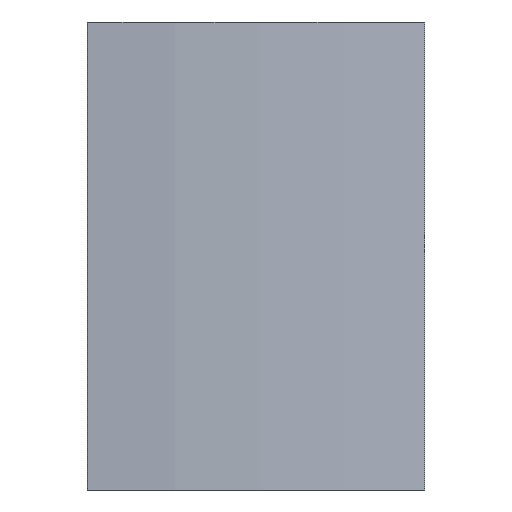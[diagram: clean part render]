
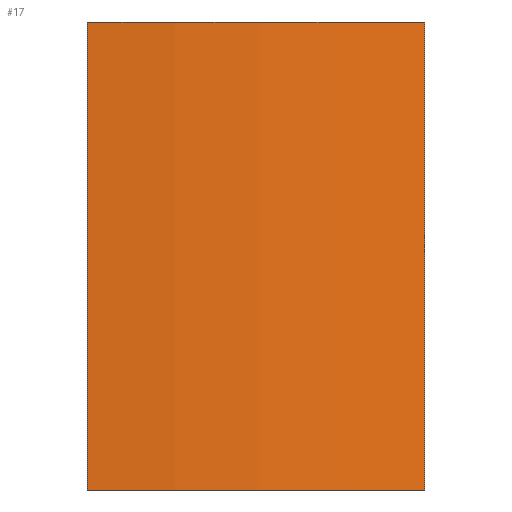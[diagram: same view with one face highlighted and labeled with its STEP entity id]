
A CAD part, front view. The second image highlights one B-rep face of the part: STEP entity #17.
In plain terms, the highlighted cylindrical face has radius 7.65 mm (diameter 15.3 mm), a partial arc.
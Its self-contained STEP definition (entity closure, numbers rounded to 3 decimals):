
#17 = ADVANCED_FACE('',(#18),#33,.T.);
#18 = FACE_BOUND('',#19,.T.);
#19 = EDGE_LOOP('',(#20,#56,#82,#111));
#20 = ORIENTED_EDGE('',*,*,#21,.F.);
#21 = EDGE_CURVE('',#22,#24,#26,.T.);
#22 = VERTEX_POINT('',#23);
#23 = CARTESIAN_POINT('',(0.04,-7.65,6.55));
#24 = VERTEX_POINT('',#25);
#25 = CARTESIAN_POINT('',(3.283,-6.91,6.55));
#26 = SURFACE_CURVE('',#27,(#32,#44),.PCURVE_S1.);
#27 = CIRCLE('',#28,7.65);
#28 = AXIS2_PLACEMENT_3D('',#29,#30,#31);
#29 = CARTESIAN_POINT('',(0.,0.,6.55));
#30 = DIRECTION('',(0.,0.,1.));
#31 = DIRECTION('',(1.,0.,-0.));
#32 = PCURVE('',#33,#38);
#33 = CYLINDRICAL_SURFACE('',#34,7.65);
#34 = AXIS2_PLACEMENT_3D('',#35,#36,#37);
#35 = CARTESIAN_POINT('',(0.,0.,2.05));
#36 = DIRECTION('',(0.,0.,1.));
#37 = DIRECTION('',(1.,0.,-0.));
#38 = DEFINITIONAL_REPRESENTATION('',(#39),#43);
#39 = LINE('',#40,#41);
#40 = CARTESIAN_POINT('',(0.,4.5));
#41 = VECTOR('',#42,1.);
#42 = DIRECTION('',(1.,0.));
#43 = ( GEOMETRIC_REPRESENTATION_CONTEXT(2) 
PARAMETRIC_REPRESENTATION_CONTEXT() REPRESENTATION_CONTEXT('2D SPACE',''
  ) );
#44 = PCURVE('',#45,#50);
#45 = PLANE('',#46);
#46 = AXIS2_PLACEMENT_3D('',#47,#48,#49);
#47 = CARTESIAN_POINT('',(0.,0.,6.55));
#48 = DIRECTION('',(0.,0.,1.));
#49 = DIRECTION('',(1.,0.,-0.));
#50 = DEFINITIONAL_REPRESENTATION('',(#51),#55);
#51 = CIRCLE('',#52,7.65);
#52 = AXIS2_PLACEMENT_2D('',#53,#54);
#53 = CARTESIAN_POINT('',(0.,0.));
#54 = DIRECTION('',(1.,0.));
#55 = ( GEOMETRIC_REPRESENTATION_CONTEXT(2) 
PARAMETRIC_REPRESENTATION_CONTEXT() REPRESENTATION_CONTEXT('2D SPACE',''
  ) );
#56 = ORIENTED_EDGE('',*,*,#57,.F.);
#57 = EDGE_CURVE('',#58,#22,#60,.T.);
#58 = VERTEX_POINT('',#59);
#59 = CARTESIAN_POINT('',(0.04,-7.65,2.05));
#60 = SURFACE_CURVE('',#61,(#65,#71),.PCURVE_S1.);
#61 = LINE('',#62,#63);
#62 = CARTESIAN_POINT('',(0.04,-7.65,2.05));
#63 = VECTOR('',#64,1.);
#64 = DIRECTION('',(0.,0.,1.));
#65 = PCURVE('',#33,#66);
#66 = DEFINITIONAL_REPRESENTATION('',(#67),#70);
#67 = B_SPLINE_CURVE_WITH_KNOTS('',1,(#68,#69),.UNSPECIFIED.,.F.,.F.,(2,
    2),(0.,4.5),.PIECEWISE_BEZIER_KNOTS.);
#68 = CARTESIAN_POINT('',(4.718,0.));
#69 = CARTESIAN_POINT('',(4.718,4.5));
#70 = ( GEOMETRIC_REPRESENTATION_CONTEXT(2) 
PARAMETRIC_REPRESENTATION_CONTEXT() REPRESENTATION_CONTEXT('2D SPACE',''
  ) );
#71 = PCURVE('',#72,#77);
#72 = PLANE('',#73);
#73 = AXIS2_PLACEMENT_3D('',#74,#75,#76);
#74 = CARTESIAN_POINT('',(0.,0.,2.04));
#75 = DIRECTION('',(1.,0.005,-0.));
#76 = DIRECTION('',(0.005,-1.,0.));
#77 = DEFINITIONAL_REPRESENTATION('',(#78),#81);
#78 = B_SPLINE_CURVE_WITH_KNOTS('',1,(#79,#80),.UNSPECIFIED.,.F.,.F.,(2,
    2),(0.,4.5),.PIECEWISE_BEZIER_KNOTS.);
#79 = CARTESIAN_POINT('',(7.65,-0.01));
#80 = CARTESIAN_POINT('',(7.65,-4.51));
#81 = ( GEOMETRIC_REPRESENTATION_CONTEXT(2) 
PARAMETRIC_REPRESENTATION_CONTEXT() REPRESENTATION_CONTEXT('2D SPACE',''
  ) );
#82 = ORIENTED_EDGE('',*,*,#83,.T.);
#83 = EDGE_CURVE('',#58,#84,#86,.T.);
#84 = VERTEX_POINT('',#85);
#85 = CARTESIAN_POINT('',(3.283,-6.91,2.05));
#86 = SURFACE_CURVE('',#87,(#92,#99),.PCURVE_S1.);
#87 = CIRCLE('',#88,7.65);
#88 = AXIS2_PLACEMENT_3D('',#89,#90,#91);
#89 = CARTESIAN_POINT('',(0.,0.,2.05));
#90 = DIRECTION('',(0.,0.,1.));
#91 = DIRECTION('',(1.,0.,-0.));
#92 = PCURVE('',#33,#93);
#93 = DEFINITIONAL_REPRESENTATION('',(#94),#98);
#94 = LINE('',#95,#96);
#95 = CARTESIAN_POINT('',(0.,0.));
#96 = VECTOR('',#97,1.);
#97 = DIRECTION('',(1.,0.));
#98 = ( GEOMETRIC_REPRESENTATION_CONTEXT(2) 
PARAMETRIC_REPRESENTATION_CONTEXT() REPRESENTATION_CONTEXT('2D SPACE',''
  ) );
#99 = PCURVE('',#100,#105);
#100 = PLANE('',#101);
#101 = AXIS2_PLACEMENT_3D('',#102,#103,#104);
#102 = CARTESIAN_POINT('',(0.,0.,2.05));
#103 = DIRECTION('',(0.,0.,1.));
#104 = DIRECTION('',(1.,0.,-0.));
#105 = DEFINITIONAL_REPRESENTATION('',(#106),#110);
#106 = CIRCLE('',#107,7.65);
#107 = AXIS2_PLACEMENT_2D('',#108,#109);
#108 = CARTESIAN_POINT('',(0.,0.));
#109 = DIRECTION('',(1.,0.));
#110 = ( GEOMETRIC_REPRESENTATION_CONTEXT(2) 
PARAMETRIC_REPRESENTATION_CONTEXT() REPRESENTATION_CONTEXT('2D SPACE',''
  ) );
#111 = ORIENTED_EDGE('',*,*,#112,.T.);
#112 = EDGE_CURVE('',#84,#24,#113,.T.);
#113 = SURFACE_CURVE('',#114,(#118,#124),.PCURVE_S1.);
#114 = LINE('',#115,#116);
#115 = CARTESIAN_POINT('',(3.283,-6.91,2.05));
#116 = VECTOR('',#117,1.);
#117 = DIRECTION('',(0.,0.,1.));
#118 = PCURVE('',#33,#119);
#119 = DEFINITIONAL_REPRESENTATION('',(#120),#123);
#120 = B_SPLINE_CURVE_WITH_KNOTS('',1,(#121,#122),.UNSPECIFIED.,.F.,.F.,
  (2,2),(0.,4.5),.PIECEWISE_BEZIER_KNOTS.);
#121 = CARTESIAN_POINT('',(5.156,0.));
#122 = CARTESIAN_POINT('',(5.156,4.5));
#123 = ( GEOMETRIC_REPRESENTATION_CONTEXT(2) 
PARAMETRIC_REPRESENTATION_CONTEXT() REPRESENTATION_CONTEXT('2D SPACE',''
  ) );
#124 = PCURVE('',#125,#130);
#125 = PLANE('',#126);
#126 = AXIS2_PLACEMENT_3D('',#127,#128,#129);
#127 = CARTESIAN_POINT('',(9.849,-20.729,2.04));
#128 = DIRECTION('',(-0.903,-0.429,0.));
#129 = DIRECTION('',(-0.429,0.903,0.));
#130 = DEFINITIONAL_REPRESENTATION('',(#131),#134);
#131 = B_SPLINE_CURVE_WITH_KNOTS('',1,(#132,#133),.UNSPECIFIED.,.F.,.F.,
  (2,2),(0.,4.5),.PIECEWISE_BEZIER_KNOTS.);
#132 = CARTESIAN_POINT('',(15.3,-0.01));
#133 = CARTESIAN_POINT('',(15.3,-4.51));
#134 = ( GEOMETRIC_REPRESENTATION_CONTEXT(2) 
PARAMETRIC_REPRESENTATION_CONTEXT() REPRESENTATION_CONTEXT('2D SPACE',''
  ) );
